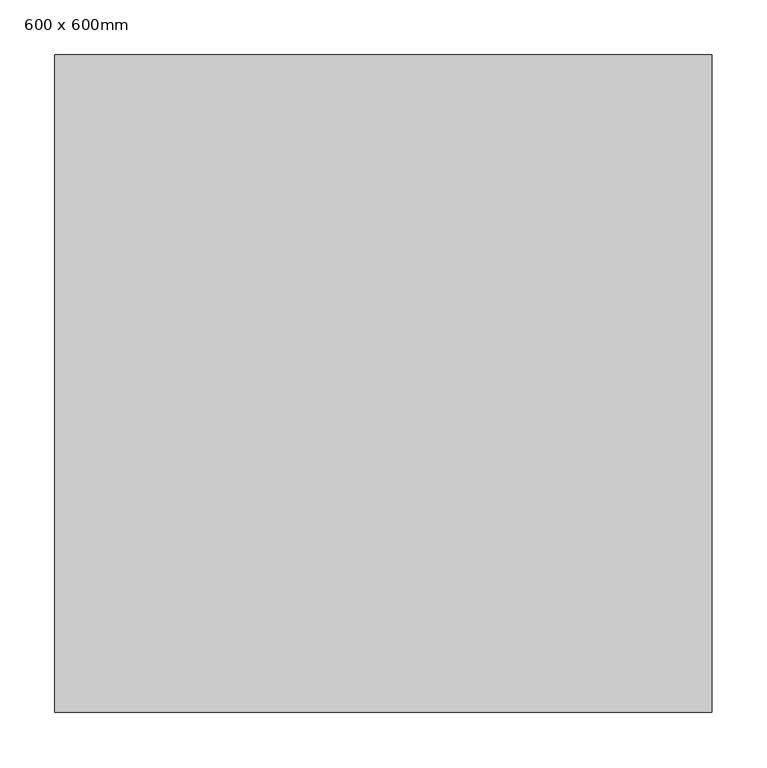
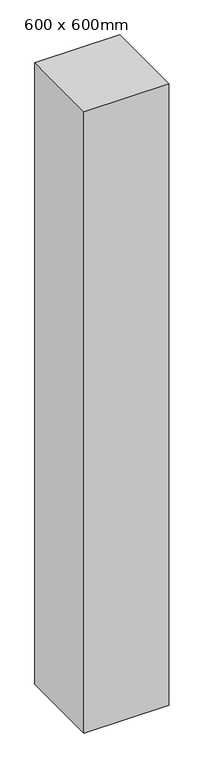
"""IFC4 building model written with IfcOpenShell, lengths in millimetres: column geometry, 矩形柱 : 600 x 600mm."""

from ifc_helpers import new_model, si_unit, frame, origin, place, context, project, spatial, polyline, outline, extrude, source, transform, mapped, element, save


def column_600_x_600mm_ad8a5c12(model_context):
    return source(origin(), model_context, "Body", "SweptSolid", [
        extrude(outline(polyline([(300.0, -300.0), (-300.0, -300.0), (-300.0, 300.0), (300.0, 300.0), (300.0, -300.0)])), frame((0.0, 0.0, -450.0), z_axis=(0.0, 0.0, 1.0), x_axis=(1.0, 0.0, 0.0)), (0.0, 0.0, 1.0), 4650.0),
    ])


if __name__ == "__main__":
    model = new_model("IFC4")
    model_context = context("Model", 3, world=origin())
    ifc_project = project(units=[si_unit("LENGTHUNIT", "METRE", prefix="MILLI")], contexts=[model_context])
    site = spatial("IfcSite", under=ifc_project)
    building = spatial("IfcBuilding", under=site)
    placement = place(None, origin())
    column_600_x_600mm_shape = column_600_x_600mm_ad8a5c12(model_context)
    element("IfcColumn", 1, ObjectType="矩形柱 : 600 x 600mm", at=placement, inside=building, context=model_context, shape_type="MappedRepresentation", body=[
        mapped(column_600_x_600mm_shape, transform((0.0, 0.0, 0.0), x_axis=(1.0, 0.0, 0.0), y_axis=(0.0, 1.0, 0.0), z_axis=(0.0, 0.0, 1.0))),
    ])
    save(model, "model.ifc")
